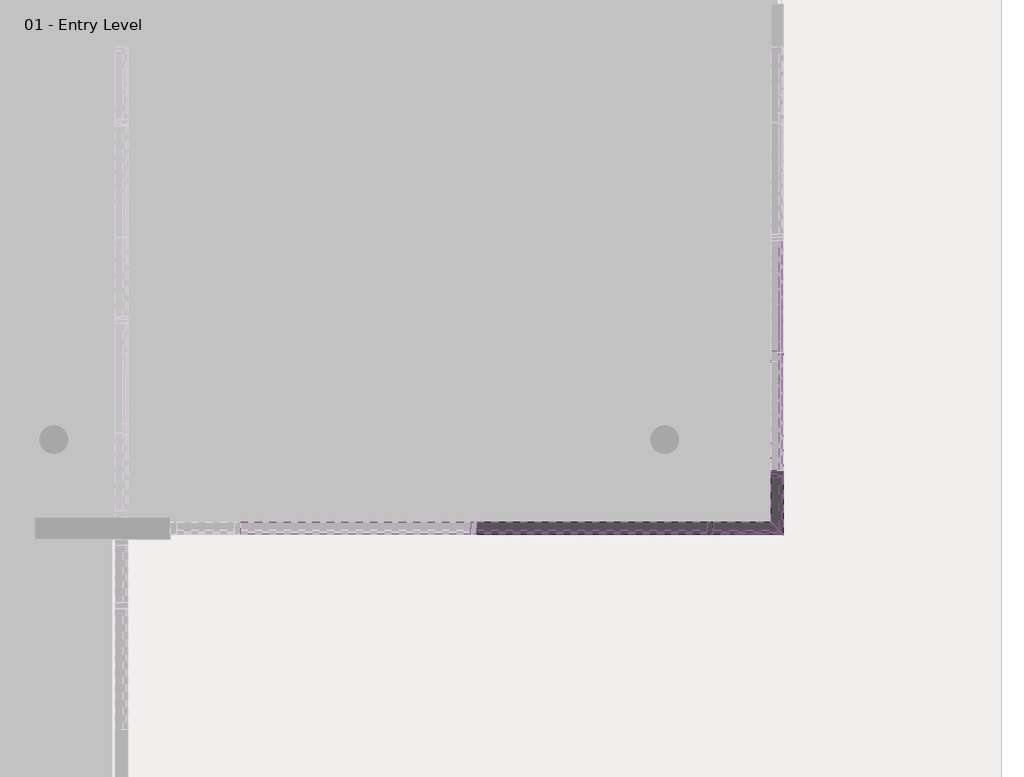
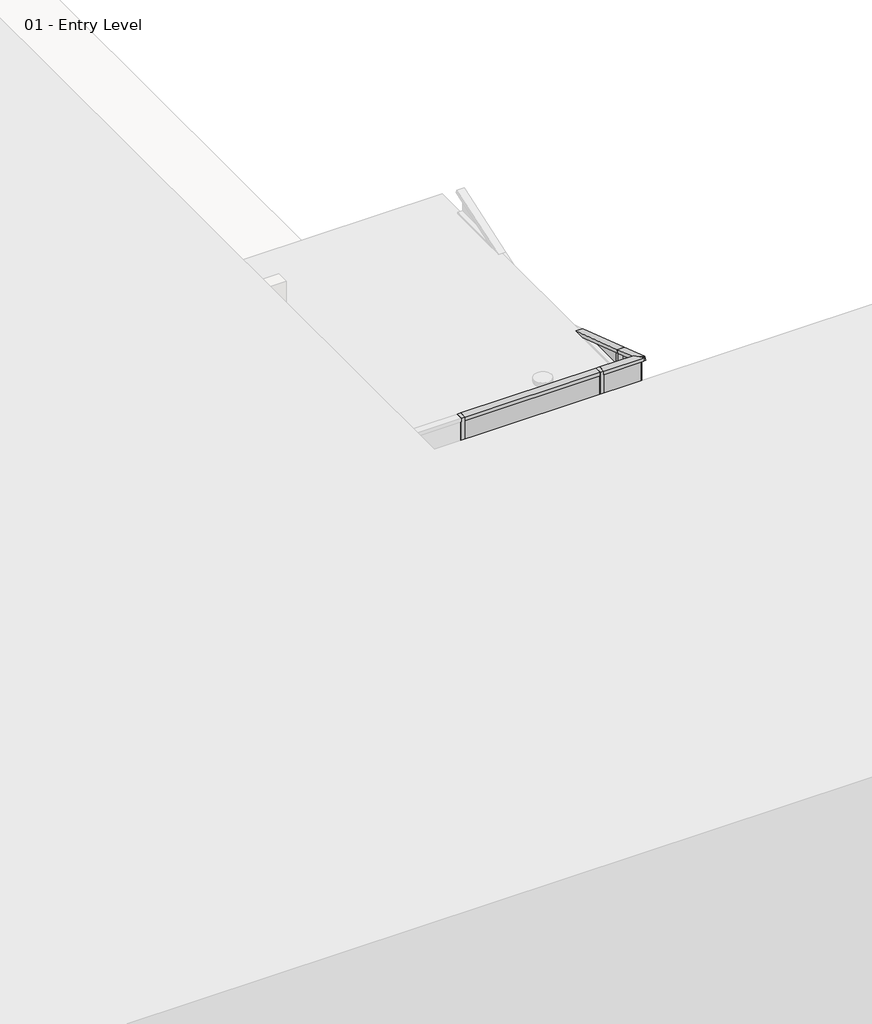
# One storey, part 14 of 34: 80 members, 48 plates.
"""IFC4 building model written with IfcOpenShell, lengths in millimetres."""

from ifc_helpers import new_model, si_unit, origin, place, context, project, spatial, transform, mapped, element, save
from components import member_6e77e263, member_b2bde9e6, member_89bfb2f9, member_fce4fd76, member_4067c595, member_9ea90918, member_7a68eee0, member_f22891ba, member_f7040936, member_db3c5f50, member_d798ba6b, system_panel_glazed_1068a10c, system_panel_glazed_a178916c, system_panel_glazed_dff65941, system_panel_glazed_09644247, system_panel_glazed_ee7bb25c, system_panel_glazed_b5016a42, system_panel_glazed_300f1d59, system_panel_glazed_afefc162, system_panel_glazed_c252a688

model = new_model("IFC4")

# Units and contexts
model_context = context("Model", 3, world=origin())
ifc_project = project(units=[si_unit("LENGTHUNIT", "METRE", prefix="MILLI")], contexts=[model_context])

# Site, building, storey
site = spatial("IfcSite", under=ifc_project)
building = spatial("IfcBuilding", under=site)
storey = spatial("IfcBuildingStorey", under=building, Name="01 - Entry Level", Elevation=0.0)

# Members
placement = place(None, origin())
member_shape = member_6e77e263(model_context)
element("IfcMember", 1, ObjectType="Rectangular Mullion : 2.5\" x 5\" rectangular", at=placement, inside=storey, context=model_context, shape_type="MappedRepresentation", body=[
    mapped(member_shape, transform((23256.3615197, 16551.2, 0.0), x_axis=(1.0, 0.0, 0.0), y_axis=(0.0, -1.0, 0.0), z_axis=(0.0, 0.0, -1.0))),
])
element("IfcMember", 2, ObjectType="Rectangular Mullion : 2.5\" x 5\" rectangular", at=placement, inside=storey, context=model_context, shape_type="MappedRepresentation", body=[
    mapped(member_shape, transform((23947.0115197, 17110.0, 0.0), x_axis=(0.0, 1.0, 0.0), y_axis=(1.0, 0.0, 0.0), z_axis=(0.0, 0.0, -1.0))),
])
element("IfcMember", 3, ObjectType="Rectangular Mullion : 2.5\" x 5\" rectangular", at=placement, inside=storey, context=model_context, shape_type="MappedRepresentation", body=[
    mapped(member_shape, transform((23256.3615197, 16551.2, 609.6), x_axis=(1.0, 0.0, 0.0), y_axis=(0.0, -1.0, 0.0), z_axis=(0.0, 0.0, -1.0))),
])
element("IfcMember", 4, ObjectType="Rectangular Mullion : 2.5\" x 5\" rectangular", at=placement, inside=storey, context=model_context, shape_type="MappedRepresentation", body=[
    mapped(member_shape, transform((20817.9615197, 16551.2, 1219.2), x_axis=(1.0, 0.0, 0.0), y_axis=(0.0, -1.0, 0.0), z_axis=(0.0, 0.0, -1.0))),
])
element("IfcMember", 5, ObjectType="Rectangular Mullion : 2.5\" x 5\" rectangular", at=placement, inside=storey, context=model_context, shape_type="MappedRepresentation", body=[
    mapped(member_shape, transform((23256.3615197, 16551.2, 1219.2), x_axis=(1.0, 0.0, 0.0), y_axis=(0.0, -1.0, 0.0), z_axis=(0.0, 0.0, -1.0))),
])
element("IfcMember", 6, ObjectType="Rectangular Mullion : 2.5\" x 5\" rectangular", at=placement, inside=storey, context=model_context, shape_type="MappedRepresentation", body=[
    mapped(member_shape, transform((20817.9615197, 16551.2, 1828.8), x_axis=(1.0, 0.0, 0.0), y_axis=(0.0, -1.0, 0.0), z_axis=(0.0, 0.0, -1.0))),
])
element("IfcMember", 7, ObjectType="Rectangular Mullion : 2.5\" x 5\" rectangular", at=placement, inside=storey, context=model_context, shape_type="MappedRepresentation", body=[
    mapped(member_shape, transform((23256.3615197, 16551.2, 1828.8), x_axis=(1.0, 0.0, 0.0), y_axis=(0.0, -1.0, 0.0), z_axis=(0.0, 0.0, -1.0))),
])
element("IfcMember", 8, ObjectType="Rectangular Mullion : 2.5\" x 5\" rectangular", at=placement, inside=storey, context=model_context, shape_type="MappedRepresentation", body=[
    mapped(member_shape, transform((20817.9615197, 16551.2, 2438.4), x_axis=(1.0, 0.0, 0.0), y_axis=(0.0, -1.0, 0.0), z_axis=(0.0, 0.0, -1.0))),
])
element("IfcMember", 9, ObjectType="Rectangular Mullion : 2.5\" x 5\" rectangular", at=placement, inside=storey, context=model_context, shape_type="MappedRepresentation", body=[
    mapped(member_shape, transform((23256.3615197, 16551.2, 2438.4), x_axis=(1.0, 0.0, 0.0), y_axis=(0.0, -1.0, 0.0), z_axis=(0.0, 0.0, -1.0))),
])
element("IfcMember", 10, ObjectType="Rectangular Mullion : 2.5\" x 5\" rectangular", at=placement, inside=storey, context=model_context, shape_type="MappedRepresentation", body=[
    mapped(member_shape, transform((20817.9615197, 16551.2, 3048.0), x_axis=(1.0, 0.0, 0.0), y_axis=(0.0, -1.0, 0.0), z_axis=(0.0, 0.0, -1.0))),
])
element("IfcMember", 11, ObjectType="Rectangular Mullion : 2.5\" x 5\" rectangular", at=placement, inside=storey, context=model_context, shape_type="MappedRepresentation", body=[
    mapped(member_shape, transform((23256.3615197, 16551.2, 3048.0), x_axis=(1.0, 0.0, 0.0), y_axis=(0.0, -1.0, 0.0), z_axis=(0.0, 0.0, -1.0))),
])
element("IfcMember", 12, ObjectType="Rectangular Mullion : 2.5\" x 5\" rectangular", at=placement, inside=storey, context=model_context, shape_type="MappedRepresentation", body=[
    mapped(member_shape, transform((23947.0115197, 17110.0, 609.6), x_axis=(0.0, 1.0, 0.0), y_axis=(1.0, 0.0, 0.0), z_axis=(0.0, 0.0, -1.0))),
])
element("IfcMember", 13, ObjectType="Rectangular Mullion : 2.5\" x 5\" rectangular", at=placement, inside=storey, context=model_context, shape_type="MappedRepresentation", body=[
    mapped(member_shape, transform((23947.0115197, 17110.0, 1219.2), x_axis=(0.0, 1.0, 0.0), y_axis=(1.0, 0.0, 0.0), z_axis=(0.0, 0.0, -1.0))),
])
element("IfcMember", 14, ObjectType="Rectangular Mullion : 2.5\" x 5\" rectangular", at=placement, inside=storey, context=model_context, shape_type="MappedRepresentation", body=[
    mapped(member_shape, transform((23947.0115197, 17110.0, 1828.8), x_axis=(0.0, 1.0, 0.0), y_axis=(1.0, 0.0, 0.0), z_axis=(0.0, 0.0, -1.0))),
])
element("IfcMember", 15, ObjectType="Rectangular Mullion : 2.5\" x 5\" rectangular", at=placement, inside=storey, context=model_context, shape_type="MappedRepresentation", body=[
    mapped(member_shape, transform((23947.0115197, 17110.0, 2438.4), x_axis=(0.0, 1.0, 0.0), y_axis=(1.0, 0.0, 0.0), z_axis=(0.0, 0.0, -1.0))),
])
element("IfcMember", 16, ObjectType="Rectangular Mullion : 2.5\" x 5\" rectangular", at=placement, inside=storey, context=model_context, shape_type="MappedRepresentation", body=[
    mapped(member_shape, transform((23947.0115197, 17110.0, 3048.0), x_axis=(0.0, 1.0, 0.0), y_axis=(1.0, 0.0, 0.0), z_axis=(0.0, 0.0, -1.0))),
])
element("IfcMember", 17, ObjectType="Rectangular Mullion : 2.5\" x 5\" rectangular", at=placement, inside=storey, context=model_context, shape_type="MappedRepresentation", body=[
    mapped(member_shape, transform((23947.0115197, 17110.0, 3657.6), x_axis=(0.0, 1.0, 0.0), y_axis=(1.0, 0.0, 0.0), z_axis=(0.0, 0.0, -1.0))),
])
element("IfcMember", 18, ObjectType="Rectangular Mullion : 2.5\" x 5\" rectangular", at=placement, inside=storey, context=model_context, shape_type="MappedRepresentation", body=[
    mapped(member_shape, transform((23947.0115197, 17110.0, 4267.2), x_axis=(0.0, 1.0, 0.0), y_axis=(1.0, 0.0, 0.0), z_axis=(0.0, 0.0, -1.0))),
])
element("IfcMember", 19, ObjectType="Rectangular Mullion : 2.5\" x 5\" rectangular", at=placement, inside=storey, context=model_context, shape_type="MappedRepresentation", body=[
    mapped(member_shape, transform((23947.0115197, 17110.0, 4876.8), x_axis=(0.0, 1.0, 0.0), y_axis=(1.0, 0.0, 0.0), z_axis=(0.0, 0.0, -1.0))),
])
element("IfcMember", 20, ObjectType="Rectangular Mullion : 2.5\" x 5\" rectangular", at=placement, inside=storey, context=model_context, shape_type="MappedRepresentation", body=[
    mapped(member_shape, transform((23947.0115197, 17110.0, 5486.4), x_axis=(0.0, 1.0, 0.0), y_axis=(1.0, 0.0, 0.0), z_axis=(0.0, 0.0, -1.0))),
])
element("IfcMember", 21, ObjectType="Rectangular Mullion : 2.5\" x 5\" rectangular", at=placement, inside=storey, context=model_context, shape_type="MappedRepresentation", body=[
    mapped(member_shape, transform((23947.0115197, 17110.0, 6096.0), x_axis=(0.0, 1.0, 0.0), y_axis=(1.0, 0.0, 0.0), z_axis=(0.0, 0.0, -1.0))),
])
element("IfcMember", 22, ObjectType="Rectangular Mullion : 2.5\" x 5\" rectangular", at=placement, inside=storey, context=model_context, shape_type="MappedRepresentation", body=[
    mapped(member_shape, transform((20817.9615197, 16551.2, 3657.6), x_axis=(1.0, 0.0, 0.0), y_axis=(0.0, -1.0, 0.0), z_axis=(0.0, 0.0, -1.0))),
])
element("IfcMember", 23, ObjectType="Rectangular Mullion : 2.5\" x 5\" rectangular", at=placement, inside=storey, context=model_context, shape_type="MappedRepresentation", body=[
    mapped(member_shape, transform((20817.9615197, 16551.2, 4267.2), x_axis=(1.0, 0.0, 0.0), y_axis=(0.0, -1.0, 0.0), z_axis=(0.0, 0.0, -1.0))),
])
element("IfcMember", 24, ObjectType="Rectangular Mullion : 2.5\" x 5\" rectangular", at=placement, inside=storey, context=model_context, shape_type="MappedRepresentation", body=[
    mapped(member_shape, transform((20817.9615197, 16551.2, 4876.8), x_axis=(1.0, 0.0, 0.0), y_axis=(0.0, -1.0, 0.0), z_axis=(0.0, 0.0, -1.0))),
])
element("IfcMember", 25, ObjectType="Rectangular Mullion : 2.5\" x 5\" rectangular", at=placement, inside=storey, context=model_context, shape_type="MappedRepresentation", body=[
    mapped(member_shape, transform((20817.9615197, 16551.2, 5486.4), x_axis=(1.0, 0.0, 0.0), y_axis=(0.0, -1.0, 0.0), z_axis=(0.0, 0.0, -1.0))),
])
element("IfcMember", 26, ObjectType="Rectangular Mullion : 2.5\" x 5\" rectangular", at=placement, inside=storey, context=model_context, shape_type="MappedRepresentation", body=[
    mapped(member_shape, transform((20817.9615197, 16551.2, 6096.0), x_axis=(1.0, 0.0, 0.0), y_axis=(0.0, -1.0, 0.0), z_axis=(0.0, 0.0, -1.0))),
])
element("IfcMember", 27, ObjectType="Rectangular Mullion : 2.5\" x 5\" rectangular", at=placement, inside=storey, context=model_context, shape_type="MappedRepresentation", body=[
    mapped(member_shape, transform((23256.3615197, 16551.2, 3657.6), x_axis=(1.0, 0.0, 0.0), y_axis=(0.0, -1.0, 0.0), z_axis=(0.0, 0.0, -1.0))),
])
element("IfcMember", 28, ObjectType="Rectangular Mullion : 2.5\" x 5\" rectangular", at=placement, inside=storey, context=model_context, shape_type="MappedRepresentation", body=[
    mapped(member_shape, transform((23256.3615197, 16551.2, 4267.2), x_axis=(1.0, 0.0, 0.0), y_axis=(0.0, -1.0, 0.0), z_axis=(0.0, 0.0, -1.0))),
])
element("IfcMember", 29, ObjectType="Rectangular Mullion : 2.5\" x 5\" rectangular", at=placement, inside=storey, context=model_context, shape_type="MappedRepresentation", body=[
    mapped(member_shape, transform((23256.3615197, 16551.2, 4876.8), x_axis=(1.0, 0.0, 0.0), y_axis=(0.0, -1.0, 0.0), z_axis=(0.0, 0.0, -1.0))),
])
element("IfcMember", 30, ObjectType="Rectangular Mullion : 2.5\" x 5\" rectangular", at=placement, inside=storey, context=model_context, shape_type="MappedRepresentation", body=[
    mapped(member_shape, transform((23256.3615197, 16551.2, 5486.4), x_axis=(1.0, 0.0, 0.0), y_axis=(0.0, -1.0, 0.0), z_axis=(0.0, 0.0, -1.0))),
])
element("IfcMember", 31, ObjectType="Rectangular Mullion : 2.5\" x 5\" rectangular", at=placement, inside=storey, context=model_context, shape_type="MappedRepresentation", body=[
    mapped(member_shape, transform((23256.3615197, 16551.2, 6096.0), x_axis=(1.0, 0.0, 0.0), y_axis=(0.0, -1.0, 0.0), z_axis=(0.0, 0.0, -1.0))),
])
member_2_shape = member_b2bde9e6(model_context)
element("IfcMember", 32, ObjectType="Rectangular Mullion : 2.5\" x 5\" rectangular", at=placement, inside=storey, context=model_context, shape_type="MappedRepresentation", body=[
    mapped(member_2_shape, transform((23947.0115197, 17141.75, 0.0), x_axis=(0.0, 0.0, -1.0), y_axis=(1.0, 0.0, 0.0), z_axis=(0.0, -1.0, 0.0))),
])
member_3_shape = member_89bfb2f9(model_context)
element("IfcMember", 33, ObjectType="Rectangular Mullion : 2.5\" x 5\" rectangular", at=placement, inside=storey, context=model_context, shape_type="MappedRepresentation", body=[
    mapped(member_3_shape, transform((23224.6115197, 16551.2, 609.6), x_axis=(0.0, 0.0, 1.0), y_axis=(0.0, -1.0, 0.0), z_axis=(1.0, 0.0, 0.0))),
])
element("IfcMember", 34, ObjectType="Rectangular Mullion : 2.5\" x 5\" rectangular", at=placement, inside=storey, context=model_context, shape_type="MappedRepresentation", body=[
    mapped(member_3_shape, transform((23224.6115197, 16551.2, 1219.2), x_axis=(0.0, 0.0, 1.0), y_axis=(0.0, -1.0, 0.0), z_axis=(1.0, 0.0, 0.0))),
])
element("IfcMember", 35, ObjectType="Rectangular Mullion : 2.5\" x 5\" rectangular", at=placement, inside=storey, context=model_context, shape_type="MappedRepresentation", body=[
    mapped(member_3_shape, transform((23224.6115197, 16551.2, 1828.8), x_axis=(0.0, 0.0, 1.0), y_axis=(0.0, -1.0, 0.0), z_axis=(1.0, 0.0, 0.0))),
])
element("IfcMember", 36, ObjectType="Rectangular Mullion : 2.5\" x 5\" rectangular", at=placement, inside=storey, context=model_context, shape_type="MappedRepresentation", body=[
    mapped(member_3_shape, transform((23224.6115197, 16551.2, 2438.4), x_axis=(0.0, 0.0, 1.0), y_axis=(0.0, -1.0, 0.0), z_axis=(1.0, 0.0, 0.0))),
])
element("IfcMember", 37, ObjectType="Rectangular Mullion : 2.5\" x 5\" rectangular", at=placement, inside=storey, context=model_context, shape_type="MappedRepresentation", body=[
    mapped(member_3_shape, transform((23224.6115197, 16551.2, 3048.0), x_axis=(0.0, 0.0, 1.0), y_axis=(0.0, -1.0, 0.0), z_axis=(1.0, 0.0, 0.0))),
])
element("IfcMember", 38, ObjectType="Rectangular Mullion : 2.5\" x 5\" rectangular", at=placement, inside=storey, context=model_context, shape_type="MappedRepresentation", body=[
    mapped(member_3_shape, transform((20786.2115197, 16551.2, 3657.6), x_axis=(0.0, 0.0, 1.0), y_axis=(0.0, -1.0, 0.0), z_axis=(1.0, 0.0, 0.0))),
])
element("IfcMember", 39, ObjectType="Rectangular Mullion : 2.5\" x 5\" rectangular", at=placement, inside=storey, context=model_context, shape_type="MappedRepresentation", body=[
    mapped(member_3_shape, transform((23224.6115197, 16551.2, 3657.6), x_axis=(0.0, 0.0, 1.0), y_axis=(0.0, -1.0, 0.0), z_axis=(1.0, 0.0, 0.0))),
])
element("IfcMember", 40, ObjectType="Rectangular Mullion : 2.5\" x 5\" rectangular", at=placement, inside=storey, context=model_context, shape_type="MappedRepresentation", body=[
    mapped(member_3_shape, transform((20786.2115197, 16551.2, 4267.2), x_axis=(0.0, 0.0, 1.0), y_axis=(0.0, -1.0, 0.0), z_axis=(1.0, 0.0, 0.0))),
])
element("IfcMember", 41, ObjectType="Rectangular Mullion : 2.5\" x 5\" rectangular", at=placement, inside=storey, context=model_context, shape_type="MappedRepresentation", body=[
    mapped(member_3_shape, transform((23224.6115197, 16551.2, 4267.2), x_axis=(0.0, 0.0, 1.0), y_axis=(0.0, -1.0, 0.0), z_axis=(1.0, 0.0, 0.0))),
])
element("IfcMember", 42, ObjectType="Rectangular Mullion : 2.5\" x 5\" rectangular", at=placement, inside=storey, context=model_context, shape_type="MappedRepresentation", body=[
    mapped(member_3_shape, transform((20786.2115197, 16551.2, 4876.8), x_axis=(0.0, 0.0, 1.0), y_axis=(0.0, -1.0, 0.0), z_axis=(1.0, 0.0, 0.0))),
])
element("IfcMember", 43, ObjectType="Rectangular Mullion : 2.5\" x 5\" rectangular", at=placement, inside=storey, context=model_context, shape_type="MappedRepresentation", body=[
    mapped(member_3_shape, transform((23224.6115197, 16551.2, 4876.8), x_axis=(0.0, 0.0, 1.0), y_axis=(0.0, -1.0, 0.0), z_axis=(1.0, 0.0, 0.0))),
])
element("IfcMember", 44, ObjectType="Rectangular Mullion : 2.5\" x 5\" rectangular", at=placement, inside=storey, context=model_context, shape_type="MappedRepresentation", body=[
    mapped(member_3_shape, transform((20786.2115197, 16551.2, 5486.4), x_axis=(0.0, 0.0, 1.0), y_axis=(0.0, -1.0, 0.0), z_axis=(1.0, 0.0, 0.0))),
])
element("IfcMember", 45, ObjectType="Rectangular Mullion : 2.5\" x 5\" rectangular", at=placement, inside=storey, context=model_context, shape_type="MappedRepresentation", body=[
    mapped(member_3_shape, transform((23224.6115197, 16551.2, 5486.4), x_axis=(0.0, 0.0, 1.0), y_axis=(0.0, -1.0, 0.0), z_axis=(1.0, 0.0, 0.0))),
])
element("IfcMember", 46, ObjectType="Rectangular Mullion : 2.5\" x 5\" rectangular", at=placement, inside=storey, context=model_context, shape_type="MappedRepresentation", body=[
    mapped(member_3_shape, transform((20786.2115197, 16551.2, 6096.0), x_axis=(0.0, 0.0, 1.0), y_axis=(0.0, -1.0, 0.0), z_axis=(1.0, 0.0, 0.0))),
])
element("IfcMember", 47, ObjectType="Rectangular Mullion : 2.5\" x 5\" rectangular", at=placement, inside=storey, context=model_context, shape_type="MappedRepresentation", body=[
    mapped(member_3_shape, transform((23224.6115197, 16551.2, 6096.0), x_axis=(0.0, 0.0, 1.0), y_axis=(0.0, -1.0, 0.0), z_axis=(1.0, 0.0, 0.0))),
])
element("IfcMember", 48, ObjectType="Rectangular Mullion : 2.5\" x 5\" rectangular", at=placement, inside=storey, context=model_context, shape_type="MappedRepresentation", body=[
    mapped(member_3_shape, transform((20786.2115197, 16551.2, 6705.6), x_axis=(0.0, 0.0, 1.0), y_axis=(0.0, -1.0, 0.0), z_axis=(1.0, 0.0, 0.0))),
])
element("IfcMember", 49, ObjectType="Rectangular Mullion : 2.5\" x 5\" rectangular", at=placement, inside=storey, context=model_context, shape_type="MappedRepresentation", body=[
    mapped(member_3_shape, transform((23224.6115197, 16551.2, 6705.6), x_axis=(0.0, 0.0, 1.0), y_axis=(0.0, -1.0, 0.0), z_axis=(1.0, 0.0, 0.0))),
])
member_4_shape = member_fce4fd76(model_context)
element("IfcMember", 50, ObjectType="Rectangular Mullion : 2.5\" x 5\" rectangular", at=placement, inside=storey, context=model_context, shape_type="MappedRepresentation", body=[
    mapped(member_4_shape, transform((23947.0115197, 18380.0, 6705.6), x_axis=(0.0, 0.31622776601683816, 0.9486832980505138), y_axis=(1.0, 0.0, 0.0), z_axis=(0.0, 0.9486832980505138, -0.31622776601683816))),
])
member_5_shape = member_4067c595(model_context)
element("IfcMember", 51, ObjectType="Rectangular Mullion : 2.5\" x 5\" rectangular", at=placement, inside=storey, context=model_context, shape_type="MappedRepresentation", body=[
    mapped(member_5_shape, transform((23947.0115197, 17110.0, 6705.6), x_axis=(0.0, 1.0, 0.0), y_axis=(1.0, 0.0, 0.0), z_axis=(0.0, 0.0, -1.0))),
])
element("IfcMember", 52, ObjectType="Rectangular Mullion : 2.5\" x 5\" rectangular", at=placement, inside=storey, context=model_context, shape_type="MappedRepresentation", body=[
    mapped(member_2_shape, transform((23224.6115197, 16551.2, 7315.2), x_axis=(0.0, 0.0, 1.0), y_axis=(0.0, -1.0, 0.0), z_axis=(1.0, 0.0, 0.0))),
])
element("IfcMember", 53, ObjectType="Rectangular Mullion : 2.5\" x 5\" rectangular", at=placement, inside=storey, context=model_context, shape_type="MappedRepresentation", body=[
    mapped(member_shape, transform((20817.9615197, 16551.2, 6705.6), x_axis=(1.0, 0.0, 0.0), y_axis=(0.0, -1.0, 0.0), z_axis=(0.0, 0.0, -1.0))),
])
element("IfcMember", 54, ObjectType="Rectangular Mullion : 2.5\" x 5\" rectangular", at=placement, inside=storey, context=model_context, shape_type="MappedRepresentation", body=[
    mapped(member_shape, transform((23256.3615197, 16551.2, 6705.6), x_axis=(1.0, 0.0, 0.0), y_axis=(0.0, -1.0, 0.0), z_axis=(0.0, 0.0, -1.0))),
])
member_6_shape = member_9ea90918(model_context)
element("IfcMember", 55, ObjectType="Rectangular Mullion : 2.5\" x 5\" rectangular", at=placement, inside=storey, context=model_context, shape_type="MappedRepresentation", body=[
    mapped(member_6_shape, transform((23947.0115197, 16551.2, 0.0), x_axis=(0.0, 0.0, -1.0), y_axis=(1.0, 0.0, 0.0), z_axis=(0.0, -1.0, 0.0))),
])
member_7_shape = member_7a68eee0(model_context)
element("IfcMember", 56, ObjectType="Rectangular Mullion : 2.5\" x 5\" rectangular", at=placement, inside=storey, context=model_context, shape_type="MappedRepresentation", body=[
    mapped(member_7_shape, transform((23288.1115197, 16551.2, 0.0), x_axis=(0.0, 0.0, -1.0), y_axis=(0.0, -1.0, 0.0), z_axis=(-1.0, 0.0, 0.0))),
])
member_8_shape = member_f22891ba(model_context)
element("IfcMember", 57, ObjectType="Rectangular Mullion : 2.5\" x 5\" rectangular", at=placement, inside=storey, context=model_context, shape_type="MappedRepresentation", body=[
    mapped(member_8_shape, transform((23947.0115197, 17078.25, 609.6), x_axis=(0.0, 0.0, 1.0), y_axis=(1.0, 0.0, 0.0), z_axis=(0.0, 1.0, 0.0))),
])
element("IfcMember", 58, ObjectType="Rectangular Mullion : 2.5\" x 5\" rectangular", at=placement, inside=storey, context=model_context, shape_type="MappedRepresentation", body=[
    mapped(member_8_shape, transform((23947.0115197, 17078.25, 1219.2), x_axis=(0.0, 0.0, 1.0), y_axis=(1.0, 0.0, 0.0), z_axis=(0.0, 1.0, 0.0))),
])
element("IfcMember", 59, ObjectType="Rectangular Mullion : 2.5\" x 5\" rectangular", at=placement, inside=storey, context=model_context, shape_type="MappedRepresentation", body=[
    mapped(member_8_shape, transform((23947.0115197, 17078.25, 1828.8), x_axis=(0.0, 0.0, 1.0), y_axis=(1.0, 0.0, 0.0), z_axis=(0.0, 1.0, 0.0))),
])
element("IfcMember", 60, ObjectType="Rectangular Mullion : 2.5\" x 5\" rectangular", at=placement, inside=storey, context=model_context, shape_type="MappedRepresentation", body=[
    mapped(member_8_shape, transform((23947.0115197, 17078.25, 2438.4), x_axis=(0.0, 0.0, 1.0), y_axis=(1.0, 0.0, 0.0), z_axis=(0.0, 1.0, 0.0))),
])
element("IfcMember", 61, ObjectType="Rectangular Mullion : 2.5\" x 5\" rectangular", at=placement, inside=storey, context=model_context, shape_type="MappedRepresentation", body=[
    mapped(member_8_shape, transform((23947.0115197, 17078.25, 3048.0), x_axis=(0.0, 0.0, 1.0), y_axis=(1.0, 0.0, 0.0), z_axis=(0.0, 1.0, 0.0))),
])
element("IfcMember", 62, ObjectType="Rectangular Mullion : 2.5\" x 5\" rectangular", at=placement, inside=storey, context=model_context, shape_type="MappedRepresentation", body=[
    mapped(member_8_shape, transform((23947.0115197, 17078.25, 3657.6), x_axis=(0.0, 0.0, 1.0), y_axis=(1.0, 0.0, 0.0), z_axis=(0.0, 1.0, 0.0))),
])
element("IfcMember", 63, ObjectType="Rectangular Mullion : 2.5\" x 5\" rectangular", at=placement, inside=storey, context=model_context, shape_type="MappedRepresentation", body=[
    mapped(member_8_shape, transform((23947.0115197, 17078.25, 4267.2), x_axis=(0.0, 0.0, 1.0), y_axis=(1.0, 0.0, 0.0), z_axis=(0.0, 1.0, 0.0))),
])
element("IfcMember", 64, ObjectType="Rectangular Mullion : 2.5\" x 5\" rectangular", at=placement, inside=storey, context=model_context, shape_type="MappedRepresentation", body=[
    mapped(member_8_shape, transform((23947.0115197, 17078.25, 4876.8), x_axis=(0.0, 0.0, 1.0), y_axis=(1.0, 0.0, 0.0), z_axis=(0.0, 1.0, 0.0))),
])
element("IfcMember", 65, ObjectType="Rectangular Mullion : 2.5\" x 5\" rectangular", at=placement, inside=storey, context=model_context, shape_type="MappedRepresentation", body=[
    mapped(member_8_shape, transform((23947.0115197, 17078.25, 5486.4), x_axis=(0.0, 0.0, 1.0), y_axis=(1.0, 0.0, 0.0), z_axis=(0.0, 1.0, 0.0))),
])
element("IfcMember", 66, ObjectType="Rectangular Mullion : 2.5\" x 5\" rectangular", at=placement, inside=storey, context=model_context, shape_type="MappedRepresentation", body=[
    mapped(member_8_shape, transform((23947.0115197, 17078.25, 6096.0), x_axis=(0.0, 0.0, 1.0), y_axis=(1.0, 0.0, 0.0), z_axis=(0.0, 1.0, 0.0))),
])
element("IfcMember", 67, ObjectType="Rectangular Mullion : 2.5\" x 5\" rectangular", at=placement, inside=storey, context=model_context, shape_type="MappedRepresentation", body=[
    mapped(member_8_shape, transform((23947.0115197, 17078.25, 6705.6), x_axis=(0.0, 0.0, 1.0), y_axis=(1.0, 0.0, 0.0), z_axis=(0.0, 1.0, 0.0))),
])
member_9_shape = member_f7040936(model_context)
element("IfcMember", 68, ObjectType="Rectangular Mullion : 2.5\" x 5\" rectangular", at=placement, inside=storey, context=model_context, shape_type="MappedRepresentation", body=[
    mapped(member_9_shape, transform((23947.0115197, 16551.2, 609.6), x_axis=(0.0, 0.0, 1.0), y_axis=(0.0, -1.0, 0.0), z_axis=(1.0, 0.0, 0.0))),
])
element("IfcMember", 69, ObjectType="Rectangular Mullion : 2.5\" x 5\" rectangular", at=placement, inside=storey, context=model_context, shape_type="MappedRepresentation", body=[
    mapped(member_9_shape, transform((23947.0115197, 16551.2, 1219.2), x_axis=(0.0, 0.0, 1.0), y_axis=(0.0, -1.0, 0.0), z_axis=(1.0, 0.0, 0.0))),
])
element("IfcMember", 70, ObjectType="Rectangular Mullion : 2.5\" x 5\" rectangular", at=placement, inside=storey, context=model_context, shape_type="MappedRepresentation", body=[
    mapped(member_9_shape, transform((23947.0115197, 16551.2, 1828.8), x_axis=(0.0, 0.0, 1.0), y_axis=(0.0, -1.0, 0.0), z_axis=(1.0, 0.0, 0.0))),
])
element("IfcMember", 71, ObjectType="Rectangular Mullion : 2.5\" x 5\" rectangular", at=placement, inside=storey, context=model_context, shape_type="MappedRepresentation", body=[
    mapped(member_9_shape, transform((23947.0115197, 16551.2, 2438.4), x_axis=(0.0, 0.0, 1.0), y_axis=(0.0, -1.0, 0.0), z_axis=(1.0, 0.0, 0.0))),
])
element("IfcMember", 72, ObjectType="Rectangular Mullion : 2.5\" x 5\" rectangular", at=placement, inside=storey, context=model_context, shape_type="MappedRepresentation", body=[
    mapped(member_9_shape, transform((23947.0115197, 16551.2, 3048.0), x_axis=(0.0, 0.0, 1.0), y_axis=(0.0, -1.0, 0.0), z_axis=(1.0, 0.0, 0.0))),
])
element("IfcMember", 73, ObjectType="Rectangular Mullion : 2.5\" x 5\" rectangular", at=placement, inside=storey, context=model_context, shape_type="MappedRepresentation", body=[
    mapped(member_9_shape, transform((23947.0115197, 16551.2, 3657.6), x_axis=(0.0, 0.0, 1.0), y_axis=(0.0, -1.0, 0.0), z_axis=(1.0, 0.0, 0.0))),
])
element("IfcMember", 74, ObjectType="Rectangular Mullion : 2.5\" x 5\" rectangular", at=placement, inside=storey, context=model_context, shape_type="MappedRepresentation", body=[
    mapped(member_9_shape, transform((23947.0115197, 16551.2, 4267.2), x_axis=(0.0, 0.0, 1.0), y_axis=(0.0, -1.0, 0.0), z_axis=(1.0, 0.0, 0.0))),
])
element("IfcMember", 75, ObjectType="Rectangular Mullion : 2.5\" x 5\" rectangular", at=placement, inside=storey, context=model_context, shape_type="MappedRepresentation", body=[
    mapped(member_9_shape, transform((23947.0115197, 16551.2, 4876.8), x_axis=(0.0, 0.0, 1.0), y_axis=(0.0, -1.0, 0.0), z_axis=(1.0, 0.0, 0.0))),
])
element("IfcMember", 76, ObjectType="Rectangular Mullion : 2.5\" x 5\" rectangular", at=placement, inside=storey, context=model_context, shape_type="MappedRepresentation", body=[
    mapped(member_9_shape, transform((23947.0115197, 16551.2, 5486.4), x_axis=(0.0, 0.0, 1.0), y_axis=(0.0, -1.0, 0.0), z_axis=(1.0, 0.0, 0.0))),
])
element("IfcMember", 77, ObjectType="Rectangular Mullion : 2.5\" x 5\" rectangular", at=placement, inside=storey, context=model_context, shape_type="MappedRepresentation", body=[
    mapped(member_9_shape, transform((23947.0115197, 16551.2, 6096.0), x_axis=(0.0, 0.0, 1.0), y_axis=(0.0, -1.0, 0.0), z_axis=(1.0, 0.0, 0.0))),
])
element("IfcMember", 78, ObjectType="Rectangular Mullion : 2.5\" x 5\" rectangular", at=placement, inside=storey, context=model_context, shape_type="MappedRepresentation", body=[
    mapped(member_9_shape, transform((23947.0115197, 16551.2, 6705.6), x_axis=(0.0, 0.0, 1.0), y_axis=(0.0, -1.0, 0.0), z_axis=(1.0, 0.0, 0.0))),
])
member_10_shape = member_db3c5f50(model_context)
element("IfcMember", 79, ObjectType="Rectangular Mullion : 2.5\" x 5\" rectangular", at=placement, inside=storey, context=model_context, shape_type="MappedRepresentation", body=[
    mapped(member_10_shape, transform((23947.0115197, 17110.0, 7128.9333333), x_axis=(0.0, 0.31622776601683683, 0.9486832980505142), y_axis=(1.0, 0.0, 0.0), z_axis=(0.0, 0.9486832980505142, -0.31622776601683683))),
])
member_11_shape = member_d798ba6b(model_context)
element("IfcMember", 80, ObjectType="Rectangular Mullion : 2.5\" x 5\" rectangular", at=placement, inside=storey, context=model_context, shape_type="MappedRepresentation", body=[
    mapped(member_11_shape, transform((23947.0115197, 16551.2, 7315.2), x_axis=(0.0, 0.0, 1.0), y_axis=(0.0, -1.0, 0.0), z_axis=(1.0, 0.0, 0.0))),
])

# Plates
system_panel_glazed_shape = system_panel_glazed_1068a10c(model_context)
element("IfcPlate", 81, ObjectType="System Panel : Glazed", at=placement, inside=storey, context=model_context, shape_type="MappedRepresentation", body=[
    mapped(system_panel_glazed_shape, transform((22037.1615197, 16551.2, 63.5), x_axis=(1.0, 0.0, 0.0), y_axis=(0.0, 1.0, 0.0), z_axis=(0.0, 0.0, 1.0))),
])
element("IfcPlate", 82, ObjectType="System Panel : Glazed", at=placement, inside=storey, context=model_context, shape_type="MappedRepresentation", body=[
    mapped(system_panel_glazed_shape, transform((23947.0115197, 18329.2, 63.5), x_axis=(0.0, 1.0, 0.0), y_axis=(-1.0, 0.0, 0.0), z_axis=(0.0, 0.0, 1.0))),
])
element("IfcPlate", 83, ObjectType="System Panel : Glazed", at=placement, inside=storey, context=model_context, shape_type="MappedRepresentation", body=[
    mapped(system_panel_glazed_shape, transform((22037.1615197, 16551.2, 6737.35), x_axis=(1.0, 0.0, 0.0), y_axis=(0.0, 1.0, 0.0), z_axis=(0.0, 0.0, 1.0))),
])
system_panel_glazed_2_shape = system_panel_glazed_a178916c(model_context)
element("IfcPlate", 84, ObjectType="System Panel : Glazed", at=placement, inside=storey, context=model_context, shape_type="MappedRepresentation", body=[
    mapped(system_panel_glazed_2_shape, transform((22037.1615197, 16551.2, 641.35), x_axis=(1.0, 0.0, 0.0), y_axis=(0.0, 1.0, 0.0), z_axis=(0.0, 0.0, 1.0))),
])
element("IfcPlate", 85, ObjectType="System Panel : Glazed", at=placement, inside=storey, context=model_context, shape_type="MappedRepresentation", body=[
    mapped(system_panel_glazed_2_shape, transform((22037.1615197, 16551.2, 1250.95), x_axis=(1.0, 0.0, 0.0), y_axis=(0.0, 1.0, 0.0), z_axis=(0.0, 0.0, 1.0))),
])
element("IfcPlate", 86, ObjectType="System Panel : Glazed", at=placement, inside=storey, context=model_context, shape_type="MappedRepresentation", body=[
    mapped(system_panel_glazed_2_shape, transform((22037.1615197, 16551.2, 1860.55), x_axis=(1.0, 0.0, 0.0), y_axis=(0.0, 1.0, 0.0), z_axis=(0.0, 0.0, 1.0))),
])
element("IfcPlate", 87, ObjectType="System Panel : Glazed", at=placement, inside=storey, context=model_context, shape_type="MappedRepresentation", body=[
    mapped(system_panel_glazed_2_shape, transform((22037.1615197, 16551.2, 2470.15), x_axis=(1.0, 0.0, 0.0), y_axis=(0.0, 1.0, 0.0), z_axis=(0.0, 0.0, 1.0))),
])
element("IfcPlate", 88, ObjectType="System Panel : Glazed", at=placement, inside=storey, context=model_context, shape_type="MappedRepresentation", body=[
    mapped(system_panel_glazed_2_shape, transform((22037.1615197, 16551.2, 3079.75), x_axis=(1.0, 0.0, 0.0), y_axis=(0.0, 1.0, 0.0), z_axis=(0.0, 0.0, 1.0))),
])
element("IfcPlate", 89, ObjectType="System Panel : Glazed", at=placement, inside=storey, context=model_context, shape_type="MappedRepresentation", body=[
    mapped(system_panel_glazed_2_shape, transform((23947.0115197, 18329.2, 641.35), x_axis=(0.0, 1.0, 0.0), y_axis=(-1.0, 0.0, 0.0), z_axis=(0.0, 0.0, 1.0))),
])
element("IfcPlate", 90, ObjectType="System Panel : Glazed", at=placement, inside=storey, context=model_context, shape_type="MappedRepresentation", body=[
    mapped(system_panel_glazed_2_shape, transform((23947.0115197, 18329.2, 1250.95), x_axis=(0.0, 1.0, 0.0), y_axis=(-1.0, 0.0, 0.0), z_axis=(0.0, 0.0, 1.0))),
])
element("IfcPlate", 91, ObjectType="System Panel : Glazed", at=placement, inside=storey, context=model_context, shape_type="MappedRepresentation", body=[
    mapped(system_panel_glazed_2_shape, transform((23947.0115197, 18329.2, 1860.55), x_axis=(0.0, 1.0, 0.0), y_axis=(-1.0, 0.0, 0.0), z_axis=(0.0, 0.0, 1.0))),
])
element("IfcPlate", 92, ObjectType="System Panel : Glazed", at=placement, inside=storey, context=model_context, shape_type="MappedRepresentation", body=[
    mapped(system_panel_glazed_2_shape, transform((23947.0115197, 18329.2, 2470.15), x_axis=(0.0, 1.0, 0.0), y_axis=(-1.0, 0.0, 0.0), z_axis=(0.0, 0.0, 1.0))),
])
element("IfcPlate", 93, ObjectType="System Panel : Glazed", at=placement, inside=storey, context=model_context, shape_type="MappedRepresentation", body=[
    mapped(system_panel_glazed_2_shape, transform((23947.0115197, 18329.2, 3079.75), x_axis=(0.0, 1.0, 0.0), y_axis=(-1.0, 0.0, 0.0), z_axis=(0.0, 0.0, 1.0))),
])
element("IfcPlate", 94, ObjectType="System Panel : Glazed", at=placement, inside=storey, context=model_context, shape_type="MappedRepresentation", body=[
    mapped(system_panel_glazed_2_shape, transform((23947.0115197, 18329.2, 3689.35), x_axis=(0.0, 1.0, 0.0), y_axis=(-1.0, 0.0, 0.0), z_axis=(0.0, 0.0, 1.0))),
])
element("IfcPlate", 95, ObjectType="System Panel : Glazed", at=placement, inside=storey, context=model_context, shape_type="MappedRepresentation", body=[
    mapped(system_panel_glazed_2_shape, transform((23947.0115197, 18329.2, 4298.95), x_axis=(0.0, 1.0, 0.0), y_axis=(-1.0, 0.0, 0.0), z_axis=(0.0, 0.0, 1.0))),
])
element("IfcPlate", 96, ObjectType="System Panel : Glazed", at=placement, inside=storey, context=model_context, shape_type="MappedRepresentation", body=[
    mapped(system_panel_glazed_2_shape, transform((23947.0115197, 18329.2, 4908.55), x_axis=(0.0, 1.0, 0.0), y_axis=(-1.0, 0.0, 0.0), z_axis=(0.0, 0.0, 1.0))),
])
element("IfcPlate", 97, ObjectType="System Panel : Glazed", at=placement, inside=storey, context=model_context, shape_type="MappedRepresentation", body=[
    mapped(system_panel_glazed_2_shape, transform((23947.0115197, 18329.2, 5518.15), x_axis=(0.0, 1.0, 0.0), y_axis=(-1.0, 0.0, 0.0), z_axis=(0.0, 0.0, 1.0))),
])
element("IfcPlate", 98, ObjectType="System Panel : Glazed", at=placement, inside=storey, context=model_context, shape_type="MappedRepresentation", body=[
    mapped(system_panel_glazed_2_shape, transform((22037.1615197, 16551.2, 3689.35), x_axis=(1.0, 0.0, 0.0), y_axis=(0.0, 1.0, 0.0), z_axis=(0.0, 0.0, 1.0))),
])
element("IfcPlate", 99, ObjectType="System Panel : Glazed", at=placement, inside=storey, context=model_context, shape_type="MappedRepresentation", body=[
    mapped(system_panel_glazed_2_shape, transform((22037.1615197, 16551.2, 4298.95), x_axis=(1.0, 0.0, 0.0), y_axis=(0.0, 1.0, 0.0), z_axis=(0.0, 0.0, 1.0))),
])
element("IfcPlate", 100, ObjectType="System Panel : Glazed", at=placement, inside=storey, context=model_context, shape_type="MappedRepresentation", body=[
    mapped(system_panel_glazed_2_shape, transform((22037.1615197, 16551.2, 4908.55), x_axis=(1.0, 0.0, 0.0), y_axis=(0.0, 1.0, 0.0), z_axis=(0.0, 0.0, 1.0))),
])
element("IfcPlate", 101, ObjectType="System Panel : Glazed", at=placement, inside=storey, context=model_context, shape_type="MappedRepresentation", body=[
    mapped(system_panel_glazed_2_shape, transform((22037.1615197, 16551.2, 5518.15), x_axis=(1.0, 0.0, 0.0), y_axis=(0.0, 1.0, 0.0), z_axis=(0.0, 0.0, 1.0))),
])
element("IfcPlate", 102, ObjectType="System Panel : Glazed", at=placement, inside=storey, context=model_context, shape_type="MappedRepresentation", body=[
    mapped(system_panel_glazed_2_shape, transform((22037.1615197, 16551.2, 6127.75), x_axis=(1.0, 0.0, 0.0), y_axis=(0.0, 1.0, 0.0), z_axis=(0.0, 0.0, 1.0))),
])
system_panel_glazed_3_shape = system_panel_glazed_dff65941(model_context)
element("IfcPlate", 103, ObjectType="System Panel : Glazed", at=placement, inside=storey, context=model_context, shape_type="MappedRepresentation", body=[
    mapped(system_panel_glazed_3_shape, transform((23947.0115197, 18329.2, 6127.75), x_axis=(0.0, 1.0, 0.0), y_axis=(-1.0, 0.0, 0.0), z_axis=(0.0, 0.0, 1.0))),
])
system_panel_glazed_4_shape = system_panel_glazed_09644247(model_context)
element("IfcPlate", 104, ObjectType="System Panel : Glazed", at=placement, inside=storey, context=model_context, shape_type="MappedRepresentation", body=[
    mapped(system_panel_glazed_4_shape, transform((23947.0115197, 17612.8476843, 6737.35), x_axis=(0.0, 1.0, 0.0), y_axis=(-1.0, 0.0, 0.0), z_axis=(0.0, 0.0, 1.0))),
])
system_panel_glazed_5_shape = system_panel_glazed_ee7bb25c(model_context)
element("IfcPlate", 105, ObjectType="System Panel : Glazed", at=placement, inside=storey, context=model_context, shape_type="MappedRepresentation", body=[
    mapped(system_panel_glazed_5_shape, transform((23617.5615197, 16551.2, 63.5), x_axis=(1.0, 0.0, 0.0), y_axis=(0.0, 1.0, 0.0), z_axis=(0.0, 0.0, 1.0))),
])
element("IfcPlate", 106, ObjectType="System Panel : Glazed", at=placement, inside=storey, context=model_context, shape_type="MappedRepresentation", body=[
    mapped(system_panel_glazed_5_shape, transform((23617.5615197, 16551.2, 6737.35), x_axis=(1.0, 0.0, 0.0), y_axis=(0.0, 1.0, 0.0), z_axis=(0.0, 0.0, 1.0))),
])
system_panel_glazed_6_shape = system_panel_glazed_b5016a42(model_context)
element("IfcPlate", 107, ObjectType="System Panel : Glazed", at=placement, inside=storey, context=model_context, shape_type="MappedRepresentation", body=[
    mapped(system_panel_glazed_6_shape, transform((23617.5615197, 16551.2, 641.35), x_axis=(1.0, 0.0, 0.0), y_axis=(0.0, 1.0, 0.0), z_axis=(0.0, 0.0, 1.0))),
])
element("IfcPlate", 108, ObjectType="System Panel : Glazed", at=placement, inside=storey, context=model_context, shape_type="MappedRepresentation", body=[
    mapped(system_panel_glazed_6_shape, transform((23617.5615197, 16551.2, 1250.95), x_axis=(1.0, 0.0, 0.0), y_axis=(0.0, 1.0, 0.0), z_axis=(0.0, 0.0, 1.0))),
])
element("IfcPlate", 109, ObjectType="System Panel : Glazed", at=placement, inside=storey, context=model_context, shape_type="MappedRepresentation", body=[
    mapped(system_panel_glazed_6_shape, transform((23617.5615197, 16551.2, 1860.55), x_axis=(1.0, 0.0, 0.0), y_axis=(0.0, 1.0, 0.0), z_axis=(0.0, 0.0, 1.0))),
])
element("IfcPlate", 110, ObjectType="System Panel : Glazed", at=placement, inside=storey, context=model_context, shape_type="MappedRepresentation", body=[
    mapped(system_panel_glazed_6_shape, transform((23617.5615197, 16551.2, 2470.15), x_axis=(1.0, 0.0, 0.0), y_axis=(0.0, 1.0, 0.0), z_axis=(0.0, 0.0, 1.0))),
])
element("IfcPlate", 111, ObjectType="System Panel : Glazed", at=placement, inside=storey, context=model_context, shape_type="MappedRepresentation", body=[
    mapped(system_panel_glazed_6_shape, transform((23617.5615197, 16551.2, 3079.75), x_axis=(1.0, 0.0, 0.0), y_axis=(0.0, 1.0, 0.0), z_axis=(0.0, 0.0, 1.0))),
])
element("IfcPlate", 112, ObjectType="System Panel : Glazed", at=placement, inside=storey, context=model_context, shape_type="MappedRepresentation", body=[
    mapped(system_panel_glazed_6_shape, transform((23617.5615197, 16551.2, 3689.35), x_axis=(1.0, 0.0, 0.0), y_axis=(0.0, 1.0, 0.0), z_axis=(0.0, 0.0, 1.0))),
])
element("IfcPlate", 113, ObjectType="System Panel : Glazed", at=placement, inside=storey, context=model_context, shape_type="MappedRepresentation", body=[
    mapped(system_panel_glazed_6_shape, transform((23617.5615197, 16551.2, 4298.95), x_axis=(1.0, 0.0, 0.0), y_axis=(0.0, 1.0, 0.0), z_axis=(0.0, 0.0, 1.0))),
])
element("IfcPlate", 114, ObjectType="System Panel : Glazed", at=placement, inside=storey, context=model_context, shape_type="MappedRepresentation", body=[
    mapped(system_panel_glazed_6_shape, transform((23617.5615197, 16551.2, 4908.55), x_axis=(1.0, 0.0, 0.0), y_axis=(0.0, 1.0, 0.0), z_axis=(0.0, 0.0, 1.0))),
])
element("IfcPlate", 115, ObjectType="System Panel : Glazed", at=placement, inside=storey, context=model_context, shape_type="MappedRepresentation", body=[
    mapped(system_panel_glazed_6_shape, transform((23617.5615197, 16551.2, 5518.15), x_axis=(1.0, 0.0, 0.0), y_axis=(0.0, 1.0, 0.0), z_axis=(0.0, 0.0, 1.0))),
])
element("IfcPlate", 116, ObjectType="System Panel : Glazed", at=placement, inside=storey, context=model_context, shape_type="MappedRepresentation", body=[
    mapped(system_panel_glazed_6_shape, transform((23617.5615197, 16551.2, 6127.75), x_axis=(1.0, 0.0, 0.0), y_axis=(0.0, 1.0, 0.0), z_axis=(0.0, 0.0, 1.0))),
])
system_panel_glazed_7_shape = system_panel_glazed_300f1d59(model_context)
element("IfcPlate", 117, ObjectType="System Panel : Glazed", at=placement, inside=storey, context=model_context, shape_type="MappedRepresentation", body=[
    mapped(system_panel_glazed_7_shape, transform((23947.0115197, 16814.725, 63.5), x_axis=(0.0, 1.0, 0.0), y_axis=(-1.0, 0.0, 0.0), z_axis=(0.0, 0.0, 1.0))),
])
system_panel_glazed_8_shape = system_panel_glazed_afefc162(model_context)
element("IfcPlate", 118, ObjectType="System Panel : Glazed", at=placement, inside=storey, context=model_context, shape_type="MappedRepresentation", body=[
    mapped(system_panel_glazed_8_shape, transform((23947.0115197, 16814.725, 641.35), x_axis=(0.0, 1.0, 0.0), y_axis=(-1.0, 0.0, 0.0), z_axis=(0.0, 0.0, 1.0))),
])
element("IfcPlate", 119, ObjectType="System Panel : Glazed", at=placement, inside=storey, context=model_context, shape_type="MappedRepresentation", body=[
    mapped(system_panel_glazed_8_shape, transform((23947.0115197, 16814.725, 1250.95), x_axis=(0.0, 1.0, 0.0), y_axis=(-1.0, 0.0, 0.0), z_axis=(0.0, 0.0, 1.0))),
])
element("IfcPlate", 120, ObjectType="System Panel : Glazed", at=placement, inside=storey, context=model_context, shape_type="MappedRepresentation", body=[
    mapped(system_panel_glazed_8_shape, transform((23947.0115197, 16814.725, 1860.55), x_axis=(0.0, 1.0, 0.0), y_axis=(-1.0, 0.0, 0.0), z_axis=(0.0, 0.0, 1.0))),
])
element("IfcPlate", 121, ObjectType="System Panel : Glazed", at=placement, inside=storey, context=model_context, shape_type="MappedRepresentation", body=[
    mapped(system_panel_glazed_8_shape, transform((23947.0115197, 16814.725, 2470.15), x_axis=(0.0, 1.0, 0.0), y_axis=(-1.0, 0.0, 0.0), z_axis=(0.0, 0.0, 1.0))),
])
element("IfcPlate", 122, ObjectType="System Panel : Glazed", at=placement, inside=storey, context=model_context, shape_type="MappedRepresentation", body=[
    mapped(system_panel_glazed_8_shape, transform((23947.0115197, 16814.725, 3079.75), x_axis=(0.0, 1.0, 0.0), y_axis=(-1.0, 0.0, 0.0), z_axis=(0.0, 0.0, 1.0))),
])
element("IfcPlate", 123, ObjectType="System Panel : Glazed", at=placement, inside=storey, context=model_context, shape_type="MappedRepresentation", body=[
    mapped(system_panel_glazed_8_shape, transform((23947.0115197, 16814.725, 3689.35), x_axis=(0.0, 1.0, 0.0), y_axis=(-1.0, 0.0, 0.0), z_axis=(0.0, 0.0, 1.0))),
])
element("IfcPlate", 124, ObjectType="System Panel : Glazed", at=placement, inside=storey, context=model_context, shape_type="MappedRepresentation", body=[
    mapped(system_panel_glazed_8_shape, transform((23947.0115197, 16814.725, 4298.95), x_axis=(0.0, 1.0, 0.0), y_axis=(-1.0, 0.0, 0.0), z_axis=(0.0, 0.0, 1.0))),
])
element("IfcPlate", 125, ObjectType="System Panel : Glazed", at=placement, inside=storey, context=model_context, shape_type="MappedRepresentation", body=[
    mapped(system_panel_glazed_8_shape, transform((23947.0115197, 16814.725, 4908.55), x_axis=(0.0, 1.0, 0.0), y_axis=(-1.0, 0.0, 0.0), z_axis=(0.0, 0.0, 1.0))),
])
element("IfcPlate", 126, ObjectType="System Panel : Glazed", at=placement, inside=storey, context=model_context, shape_type="MappedRepresentation", body=[
    mapped(system_panel_glazed_8_shape, transform((23947.0115197, 16814.725, 5518.15), x_axis=(0.0, 1.0, 0.0), y_axis=(-1.0, 0.0, 0.0), z_axis=(0.0, 0.0, 1.0))),
])
element("IfcPlate", 127, ObjectType="System Panel : Glazed", at=placement, inside=storey, context=model_context, shape_type="MappedRepresentation", body=[
    mapped(system_panel_glazed_8_shape, transform((23947.0115197, 16814.725, 6127.75), x_axis=(0.0, 1.0, 0.0), y_axis=(-1.0, 0.0, 0.0), z_axis=(0.0, 0.0, 1.0))),
])
system_panel_glazed_9_shape = system_panel_glazed_c252a688(model_context)
element("IfcPlate", 128, ObjectType="System Panel : Glazed", at=placement, inside=storey, context=model_context, shape_type="MappedRepresentation", body=[
    mapped(system_panel_glazed_9_shape, transform((23947.0115197, 16814.725, 6737.35), x_axis=(0.0, 1.0, 0.0), y_axis=(-1.0, 0.0, 0.0), z_axis=(0.0, 0.0, 1.0))),
])

save(model, "model.ifc")
